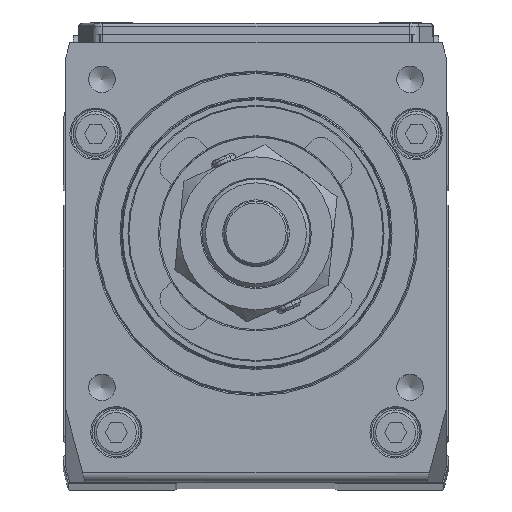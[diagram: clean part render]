
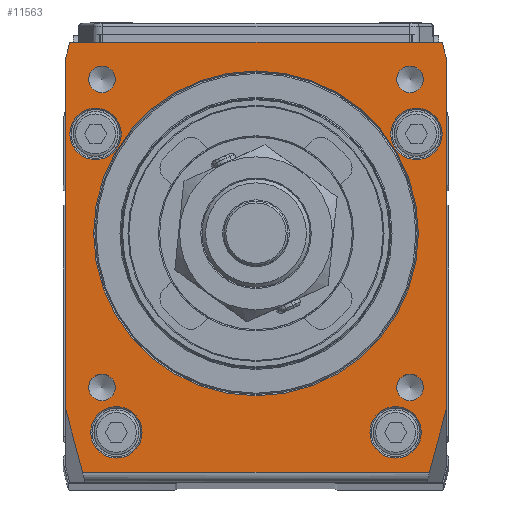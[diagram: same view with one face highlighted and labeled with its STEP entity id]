
A CAD part, top view. The second image highlights one B-rep face of the part: STEP entity #11563.
In plain terms, the highlighted planar face has unit normal (0, 0, 1) as drawn and (-1, 0, 0) by its records, which use the part's own axes.
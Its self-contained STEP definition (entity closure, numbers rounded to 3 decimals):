
#770=CIRCLE('',#17012,4.);
#771=CIRCLE('',#17013,4.);
#772=CIRCLE('',#17014,4.);
#773=CIRCLE('',#17015,4.);
#774=CIRCLE('',#17016,2.067);
#775=CIRCLE('',#17017,2.067);
#776=CIRCLE('',#17018,2.067);
#777=CIRCLE('',#17019,2.067);
#778=CIRCLE('',#17020,25.3);
#3535=ORIENTED_EDGE('',*,*,#5491,.T.);
#3536=ORIENTED_EDGE('',*,*,#5492,.T.);
#3537=ORIENTED_EDGE('',*,*,#5493,.T.);
#3538=ORIENTED_EDGE('',*,*,#5494,.T.);
#3539=ORIENTED_EDGE('',*,*,#5495,.T.);
#3540=ORIENTED_EDGE('',*,*,#5496,.T.);
#3541=ORIENTED_EDGE('',*,*,#5497,.T.);
#3542=ORIENTED_EDGE('',*,*,#5498,.T.);
#3543=ORIENTED_EDGE('',*,*,#5499,.T.);
#3544=ORIENTED_EDGE('',*,*,#5500,.F.);
#3545=ORIENTED_EDGE('',*,*,#5473,.F.);
#3546=ORIENTED_EDGE('',*,*,#5432,.F.);
#3547=ORIENTED_EDGE('',*,*,#5475,.F.);
#3548=ORIENTED_EDGE('',*,*,#5479,.F.);
#3549=ORIENTED_EDGE('',*,*,#5481,.F.);
#3550=ORIENTED_EDGE('',*,*,#5486,.F.);
#3551=ORIENTED_EDGE('',*,*,#5488,.F.);
#5432=EDGE_CURVE('',#6641,#6642,#7664,.T.);
#5473=EDGE_CURVE('',#6642,#6676,#7676,.T.);
#5475=EDGE_CURVE('',#6677,#6641,#7678,.T.);
#5479=EDGE_CURVE('',#6680,#6677,#7680,.T.);
#5481=EDGE_CURVE('',#6681,#6680,#7682,.T.);
#5486=EDGE_CURVE('',#6684,#6681,#7686,.T.);
#5488=EDGE_CURVE('',#6685,#6684,#7687,.T.);
#5491=EDGE_CURVE('',#6687,#6687,#770,.T.);
#5492=EDGE_CURVE('',#6688,#6688,#771,.T.);
#5493=EDGE_CURVE('',#6689,#6689,#772,.T.);
#5494=EDGE_CURVE('',#6690,#6690,#773,.T.);
#5495=EDGE_CURVE('',#6691,#6691,#774,.T.);
#5496=EDGE_CURVE('',#6692,#6692,#775,.T.);
#5497=EDGE_CURVE('',#6693,#6693,#776,.T.);
#5498=EDGE_CURVE('',#6694,#6694,#777,.T.);
#5499=EDGE_CURVE('',#6695,#6695,#778,.T.);
#5500=EDGE_CURVE('',#6676,#6685,#7690,.T.);
#6641=VERTEX_POINT('',#23848);
#6642=VERTEX_POINT('',#23850);
#6676=VERTEX_POINT('',#23996);
#6677=VERTEX_POINT('',#24001);
#6680=VERTEX_POINT('',#24009);
#6681=VERTEX_POINT('',#24013);
#6684=VERTEX_POINT('',#24022);
#6685=VERTEX_POINT('',#24026);
#6687=VERTEX_POINT('',#24034);
#6688=VERTEX_POINT('',#24036);
#6689=VERTEX_POINT('',#24038);
#6690=VERTEX_POINT('',#24040);
#6691=VERTEX_POINT('',#24042);
#6692=VERTEX_POINT('',#24044);
#6693=VERTEX_POINT('',#24046);
#6694=VERTEX_POINT('',#24048);
#6695=VERTEX_POINT('',#24050);
#7664=LINE('',#23849,#8642);
#7676=LINE('',#23998,#8654);
#7678=LINE('',#24002,#8656);
#7680=LINE('',#24010,#8658);
#7682=LINE('',#24014,#8660);
#7686=LINE('',#24023,#8664);
#7687=LINE('',#24028,#8665);
#7690=LINE('',#24051,#8668);
#8642=VECTOR('',#19819,1000.);
#8654=VECTOR('',#19875,1000.);
#8656=VECTOR('',#19879,1000.);
#8658=VECTOR('',#19887,1000.);
#8660=VECTOR('',#19891,1000.);
#8664=VECTOR('',#19899,1000.);
#8665=VECTOR('',#19904,1000.);
#8668=VECTOR('',#19929,1000.);
#9505=EDGE_LOOP('',(#3535));
#9506=EDGE_LOOP('',(#3536));
#9507=EDGE_LOOP('',(#3537));
#9508=EDGE_LOOP('',(#3538));
#9509=EDGE_LOOP('',(#3539));
#9510=EDGE_LOOP('',(#3540));
#9511=EDGE_LOOP('',(#3541));
#9512=EDGE_LOOP('',(#3542));
#9513=EDGE_LOOP('',(#3543));
#9514=EDGE_LOOP('',(#3544,#3545,#3546,#3547,#3548,#3549,#3550,#3551));
#10415=FACE_BOUND('',#9505,.T.);
#10416=FACE_BOUND('',#9506,.T.);
#10417=FACE_BOUND('',#9507,.T.);
#10418=FACE_BOUND('',#9508,.T.);
#10419=FACE_BOUND('',#9509,.T.);
#10420=FACE_BOUND('',#9510,.T.);
#10421=FACE_BOUND('',#9511,.T.);
#10422=FACE_BOUND('',#9512,.T.);
#10423=FACE_BOUND('',#9513,.T.);
#10424=FACE_BOUND('',#9514,.T.);
#10947=PLANE('',#17011);
#11563=ADVANCED_FACE('',(#10415,#10416,#10417,#10418,#10419,#10420,#10421,
#10422,#10423,#10424),#10947,.F.);
#17011=AXIS2_PLACEMENT_3D('',#24032,#19909,#19910);
#17012=AXIS2_PLACEMENT_3D('',#24033,#19911,#19912);
#17013=AXIS2_PLACEMENT_3D('',#24035,#19913,#19914);
#17014=AXIS2_PLACEMENT_3D('',#24037,#19915,#19916);
#17015=AXIS2_PLACEMENT_3D('',#24039,#19917,#19918);
#17016=AXIS2_PLACEMENT_3D('',#24041,#19919,#19920);
#17017=AXIS2_PLACEMENT_3D('',#24043,#19921,#19922);
#17018=AXIS2_PLACEMENT_3D('',#24045,#19923,#19924);
#17019=AXIS2_PLACEMENT_3D('',#24047,#19925,#19926);
#17020=AXIS2_PLACEMENT_3D('',#24049,#19927,#19928);
#19819=DIRECTION('',(0.,-1.,0.));
#19875=DIRECTION('',(0.,-0.966,-0.259));
#19879=DIRECTION('',(0.,-0.966,0.259));
#19887=DIRECTION('',(0.,0.,1.));
#19891=DIRECTION('',(0.,0.966,0.259));
#19899=DIRECTION('',(0.,1.,0.));
#19904=DIRECTION('',(0.,0.966,-0.259));
#19909=DIRECTION('',(1.,0.,0.));
#19910=DIRECTION('',(0.,0.,-1.));
#19911=DIRECTION('',(1.,0.,0.));
#19912=DIRECTION('',(0.,0.,-1.));
#19913=DIRECTION('',(1.,0.,0.));
#19914=DIRECTION('',(0.,0.,-1.));
#19915=DIRECTION('',(1.,0.,0.));
#19916=DIRECTION('',(0.,0.,-1.));
#19917=DIRECTION('',(1.,0.,0.));
#19918=DIRECTION('',(0.,0.,-1.));
#19919=DIRECTION('',(1.,0.,0.));
#19920=DIRECTION('',(0.,0.,-1.));
#19921=DIRECTION('',(1.,0.,0.));
#19922=DIRECTION('',(0.,0.,-1.));
#19923=DIRECTION('',(1.,0.,0.));
#19924=DIRECTION('',(0.,0.,-1.));
#19925=DIRECTION('',(1.,0.,0.));
#19926=DIRECTION('',(0.,0.,-1.));
#19927=DIRECTION('',(1.,0.,0.));
#19928=DIRECTION('',(0.,0.,-1.));
#19929=DIRECTION('',(0.,0.,-1.));
#23848=CARTESIAN_POINT('',(0.,26.95,29.75));
#23849=CARTESIAN_POINT('',(0.,26.95,29.75));
#23850=CARTESIAN_POINT('',(0.,-27.,29.75));
#23996=CARTESIAN_POINT('',(0.,-37.25,27.004));
#23998=CARTESIAN_POINT('',(0.,-27.,29.75));
#24001=CARTESIAN_POINT('',(0.,29.75,29.));
#24002=CARTESIAN_POINT('',(0.,29.75,29.));
#24009=CARTESIAN_POINT('',(0.,29.75,-29.));
#24010=CARTESIAN_POINT('',(0.,29.75,-29.));
#24013=CARTESIAN_POINT('',(0.,26.95,-29.75));
#24014=CARTESIAN_POINT('',(0.,26.95,-29.75));
#24022=CARTESIAN_POINT('',(0.,-27.,-29.75));
#24023=CARTESIAN_POINT('',(0.,-27.,-29.75));
#24026=CARTESIAN_POINT('',(0.,-37.25,-27.004));
#24028=CARTESIAN_POINT('',(0.,-38.75,-26.602));
#24032=CARTESIAN_POINT('',(0.,0.,0.));
#24033=CARTESIAN_POINT('',(0.,15.5,-25.));
#24034=CARTESIAN_POINT('',(0.,15.5,-29.));
#24035=CARTESIAN_POINT('',(0.,15.5,25.));
#24036=CARTESIAN_POINT('',(0.,15.5,21.));
#24037=CARTESIAN_POINT('',(0.,-31.,-21.75));
#24038=CARTESIAN_POINT('',(0.,-31.,-25.75));
#24039=CARTESIAN_POINT('',(0.,-31.,21.75));
#24040=CARTESIAN_POINT('',(0.,-31.,17.75));
#24041=CARTESIAN_POINT('',(0.,-24.,-24.));
#24042=CARTESIAN_POINT('',(0.,-24.,-26.067));
#24043=CARTESIAN_POINT('',(0.,24.,-24.));
#24044=CARTESIAN_POINT('',(0.,24.,-26.067));
#24045=CARTESIAN_POINT('',(0.,24.,24.));
#24046=CARTESIAN_POINT('',(0.,24.,21.933));
#24047=CARTESIAN_POINT('',(0.,-24.,24.));
#24048=CARTESIAN_POINT('',(0.,-24.,21.933));
#24049=CARTESIAN_POINT('',(0.,0.,0.));
#24050=CARTESIAN_POINT('',(0.,0.,-25.3));
#24051=CARTESIAN_POINT('',(0.,-37.25,29.75));
